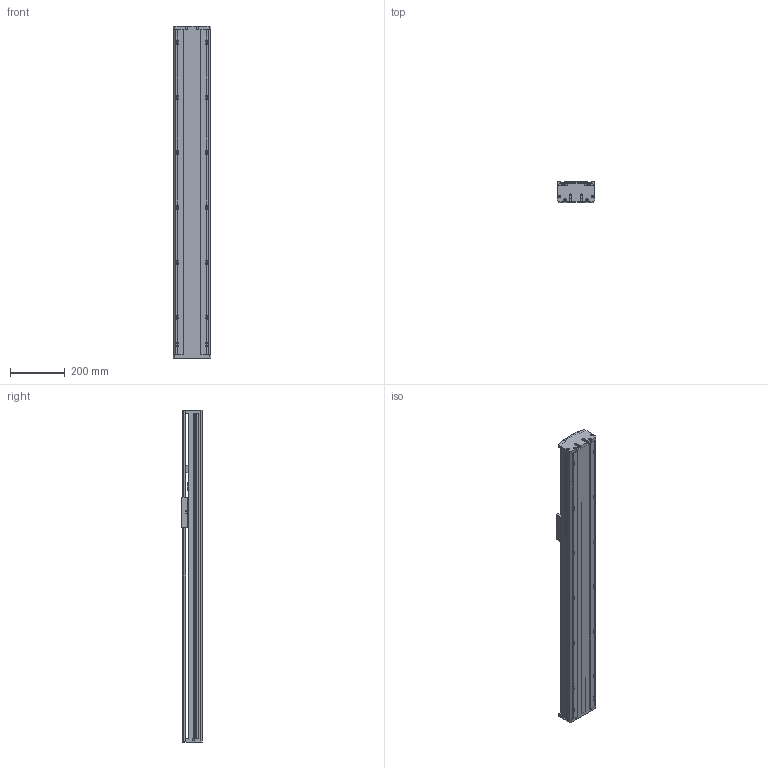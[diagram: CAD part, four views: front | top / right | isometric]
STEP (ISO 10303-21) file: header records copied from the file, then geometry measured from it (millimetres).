
FILE_DESCRIPTION(/* description */ (''),/* implementation_level */ '2;1');
FILE_NAME(/* name */ 'TKA136-FI-750_asm1.stp',/* time_stamp */ '2016-05-07T10:41:51+08:00',/* author */ (''),/* organization */ (''),/* preprocessor_version */ 'ST-DEVELOPER v15',/* originating_system */ 'SIEMENS PLM Software NX 8.5',/* authorisation */ '');
FILE_SCHEMA (('AUTOMOTIVE_DESIGN { 1 0 10303 214 3 1 1 1 }'));
Length unit declared in the file: millimetre
Products named in the file (3): 100-02; 100-01; TKA136-FI-750_asm1
Assembly tree (2 placements, depth 2):
  TKA136-FI-750_asm1
    100-01
    100-02
Bounding box: 136 x 75 x 1209 mm (x, y, z)
Volume: 3707097 mm3; surface area: 1396738.5 mm2
Topology: 2 solids, 12 shells, 973 faces, 2828 edges, 1855 vertices
Faces by surface type: cylinder 485, plane 438, cone 50
Full cylindrical faces by diameter (mm): 2.5 x4, 3.3 x8, 4.2 x8, 4.5 x20, 5 x12, 5.5 x14, 8 x20, 10 x9, 10.5 x8, 11.6 x1, 12 x8, 15 x3, 16 x5, 24 x3, 26 x1, 28 x1, 46 x1
Entity records: 34319 total; most frequent: CARTESIAN_POINT 9049, ORIENTED_EDGE 5212, DIRECTION 5156, EDGE_CURVE 2606, AXIS2_PLACEMENT_3D 1916, VERTEX_POINT 1807, LINE 1324, VECTOR 1324
